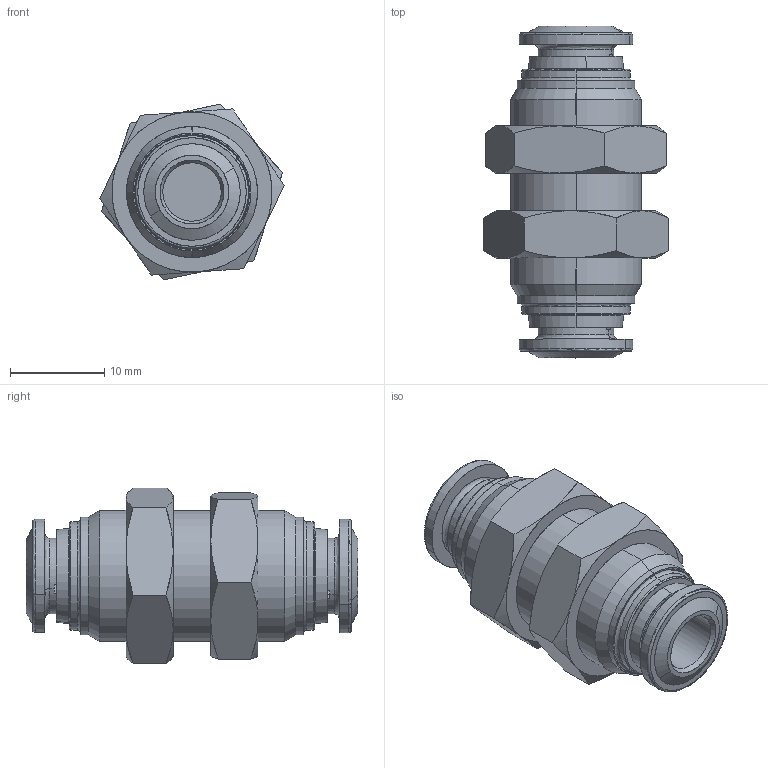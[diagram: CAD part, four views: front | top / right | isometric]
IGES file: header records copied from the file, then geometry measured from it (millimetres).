
Start section: SolidWorks IGES file using analytic representation for surfaces
Global section: file name: K:\Disegni Esecutivi\Serie 57000\ASSIEMI_57000\57050\ASSIEMI_PIENI_57050\5705000002A.IGS; native system: SolidWorks 2007; preprocessor: SolidWorks 2007; author: cad02; date: 080204.082258; units: millimetre
Bounding box: 19.58 x 35.2 x 18.67 mm (x, y, z)
Surface area: 2639.6 mm2 (no closed solid volume)
Topology: 0 solids, 0 shells, 140 faces, 2064 edges, 2064 vertices
Faces by surface type: revolution 78, bspline 62
